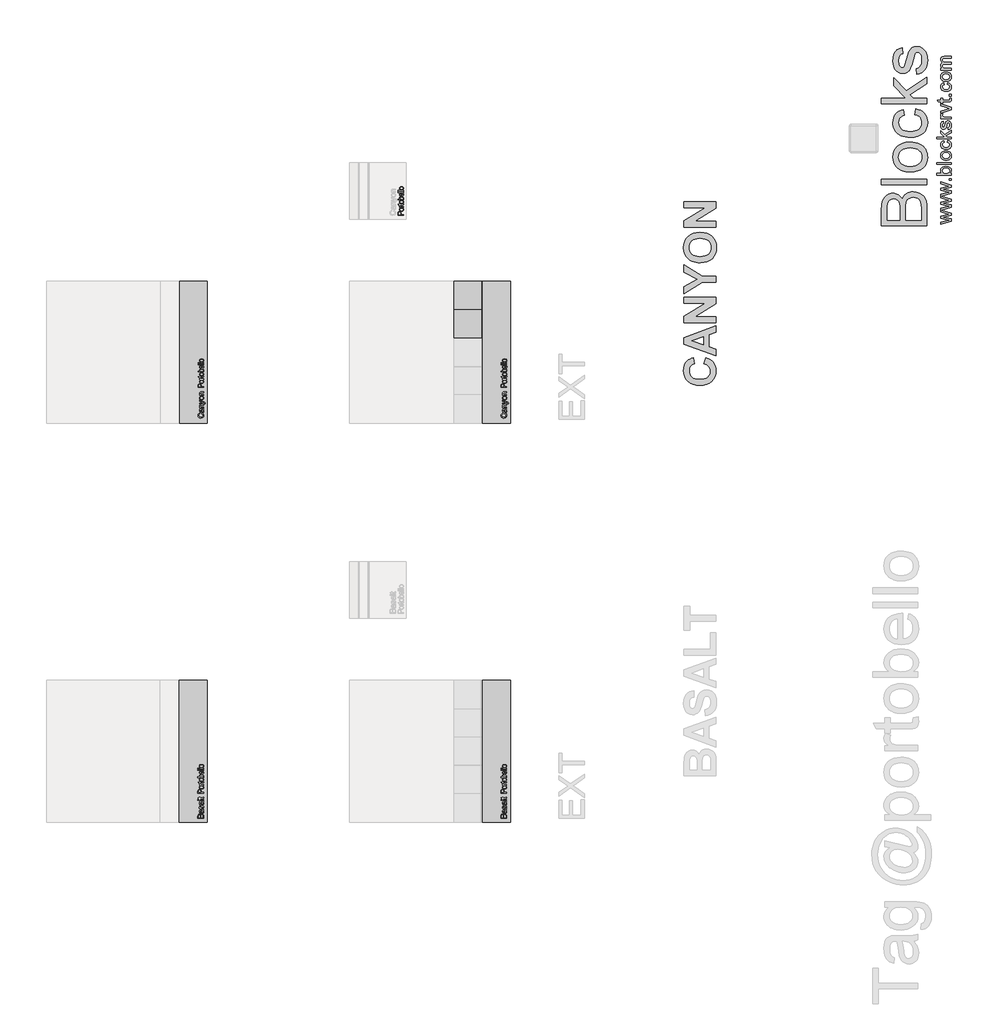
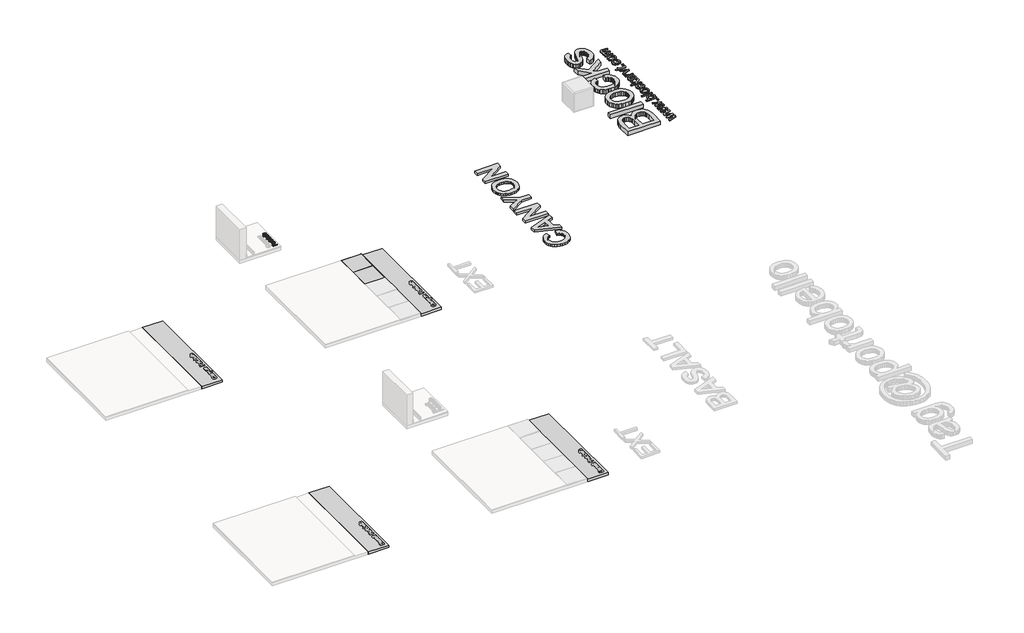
# One storey, part 6 of 6: 11 proxies.
"""IFC4 building model written with IfcOpenShell, lengths in millimetres."""

from ifc_helpers import new_model, si_unit, frame, origin, origin_with_axes, place, context, project, spatial, polyline, outline, extrude, transform, mapped, element, save
from components import generic_models_2391cbb6, generic_models_5408dc23, canyon_243530b5, canyon_287c7c05

model = new_model("IFC4")

# Units and contexts
model_context = context("Model", 3, world=origin())
ifc_project = project(units=[si_unit("LENGTHUNIT", "METRE", prefix="MILLI")], contexts=[model_context])

# Site, building, storey
site = spatial("IfcSite", under=ifc_project)
building = spatial("IfcBuilding", under=site)
storey = spatial("IfcBuildingStorey", under=building, Name="PORTOBELLO - SHOWROOM", Elevation=0.0)

# Proxies
placement = place(None, origin())
generic_models_shape = generic_models_2391cbb6(model_context)
element("IfcBuildingElementProxy", 1, Name="Água2 : Água", ObjectType="Água2 : Água", at=placement, inside=storey, context=model_context, shape_type="MappedRepresentation", body=[
    mapped(generic_models_shape, transform((0.0, 0.0, 0.0), x_axis=(1.0, 0.0, 0.0), y_axis=(0.0, 1.0, 0.0), z_axis=(0.0, 0.0, 1.0))),
])
generic_models_2_shape = generic_models_5408dc23(model_context)
element("IfcBuildingElementProxy", 2, Name="Água1 : Água", ObjectType="Água1 : Água", at=placement, inside=storey, context=model_context, shape_type="MappedRepresentation", body=[
    mapped(generic_models_2_shape, transform((0.0, 535.0, 0.0), x_axis=(1.0, 0.0, 0.0), y_axis=(0.0, 1.0, 0.0), z_axis=(0.0, 0.0, 1.0))),
])
element("IfcBuildingElementProxy", 3, Name="Água3 : Água", ObjectType="Água3 : Água", at=placement, inside=storey, context=model_context, shape_type="MappedRepresentation", body=[
    mapped(generic_models_shape, transform((5344.0, 0.0, 0.0), x_axis=(1.0, 0.0, 0.0), y_axis=(0.0, 1.0, 0.0), z_axis=(0.0, 0.0, 1.0))),
])
element("IfcBuildingElementProxy", 4, Name="Água4 : Água", ObjectType="Água4 : Água", at=placement, inside=storey, context=model_context, shape_type="MappedRepresentation", body=[
    mapped(generic_models_2_shape, transform((5344.0, 535.0, 0.0), x_axis=(1.0, 0.0, 0.0), y_axis=(0.0, 1.0, 0.0), z_axis=(0.0, 0.0, 1.0))),
])
element("IfcBuildingElementProxy", 5, Name="10mm Arial Narrow", ObjectType="10mm Arial Narrow", at=placement, inside=storey, context=model_context, shape_type="SweptSolid", body=[
    extrude(outline(polyline([(-4838.8191534, 2273.1726113), (-4939.5377572, 2273.1726113), (-4939.5377572, 2304.469496), (-4937.6594364, 2320.7651975), (-4928.1789933, 2332.2381836), (-4911.1598844, 2336.5278621), (-4899.0840589, 2334.7415536), (-4889.4576651, 2329.3826284), (-4883.1564067, 2319.6388396), (-4881.0559873, 2304.6979404), (-4881.0559873, 2282.919573), (-4838.8191534, 2282.919573), (-4838.8191534, 2273.1726113)]), holes=[polyline([(-4892.4274425, 2282.919573), (-4892.4274425, 2305.8909279), (-4896.9582567, 2321.7551233), (-4910.6268475, 2326.7809004), (-4920.7926239, 2324.3060859), (-4926.5925737, 2318.3284571), (-4928.1663019, 2305.6624835), (-4928.1663019, 2282.919573), (-4892.4274425, 2282.919573)])]), frame((0.0, 0.0, 16.0), z_axis=(0.0, 0.0, 1.0), x_axis=(1.0, 0.0, 0.0)), (0.0, 0.0, 1.0), 20.0),
    extrude(outline(polyline([(-4875.3702596, 2344.6503301), (-4891.9610352, 2346.604799), (-4903.91312, 2352.4682056), (-4911.1376746, 2361.3267723), (-4913.5458594, 2372.2667214), (-4911.1376746, 2383.079757), (-4903.91312, 2391.9637065), (-4892.1514055, 2397.9032612), (-4876.131741, 2399.8831128), (-4858.9698544, 2397.9381624), (-4846.8273993, 2392.1033114), (-4839.6028447, 2383.2542632), (-4837.1946598, 2372.2667214), (-4839.6091904, 2361.4060933), (-4846.852782, 2352.5316624), (-4858.8112125, 2346.6206632), (-4875.3702596, 2344.6503301)]), holes=[polyline([(-4875.3956423, 2354.3972917), (-4862.8438909, 2355.7013286), (-4853.9726329, 2359.6134392), (-4848.6993743, 2365.4546359), (-4846.9416215, 2372.5459313), (-4848.7152385, 2379.2660045), (-4854.0360896, 2384.9580778), (-4862.9232119, 2388.8416328), (-4875.3956423, 2390.1361511), (-4887.9093197, 2388.8321143), (-4896.7678864, 2384.9200037), (-4902.0411449, 2379.078807), (-4903.7988978, 2371.9875116), (-4902.0316264, 2365.2198459), (-4896.7298123, 2359.5372911), (-4887.8617271, 2355.6822916), (-4875.3956423, 2354.3972917)])]), frame((0.0, 0.0, 16.0), z_axis=(0.0, 0.0, 1.0), x_axis=(1.0, 0.0, 0.0)), (0.0, 0.0, 1.0), 20.0),
    extrude(outline(polyline([(-4846.9416215, 2471.3608316), (-4837.1946598, 2472.9853252), (-4837.1946598, 2465.6243385), (-4839.3141163, 2457.3495742), (-4845.1140662, 2453.0345131), (-4859.7598913, 2451.8669083), (-4902.1744042, 2451.8669083), (-4902.1744042, 2443.7444402), (-4905.4233914, 2443.7444402), (-4900.5499106, 2442.1199466), (-4902.1744042, 2434.5558983), (-4899.851886, 2428.4767386), (-4893.3666029, 2424.6058749), (-4877.9592963, 2422.6260233), (-4838.8191534, 2422.6260233), (-4838.8191534, 2412.8790617), (-4911.9213658, 2412.8790617), (-4911.9213658, 2422.6260233), (-4902.2251696, 2422.6260233), (-4911.3121807, 2428.8701706), (-4913.5458594, 2435.2666142), (-4911.9213658, 2443.7444402), (-4911.9213658, 2451.8669083), (-4928.1663019, 2451.8669083), (-4936.28877, 2461.6138699), (-4911.9213658, 2461.6138699), (-4911.9213658, 2471.3608316), (-4902.1744042, 2471.3608316), (-4902.1744042, 2461.6138699), (-4857.5262126, 2461.6138699), (-4849.5306582, 2462.4768822), (-4846.9416215, 2467.0965359), (-4846.9416215, 2471.3608316)])), frame((0.0, 0.0, 16.0), z_axis=(0.0, 0.0, 1.0), x_axis=(1.0, 0.0, 0.0)), (0.0, 0.0, 1.0), 20.0),
    extrude(outline(polyline([(-4875.3702596, 2477.858806), (-4891.9610352, 2479.8132749), (-4903.91312, 2485.6766815), (-4911.1376746, 2494.5352482), (-4913.5458594, 2505.4751974), (-4911.1376746, 2516.288233), (-4903.91312, 2525.1721824), (-4892.1514055, 2531.1117371), (-4876.131741, 2533.0915887), (-4858.9698544, 2531.1466384), (-4846.8273993, 2525.3117873), (-4839.6028447, 2516.4627391), (-4837.1946598, 2505.4751974), (-4839.6091904, 2494.6145692), (-4846.852782, 2485.7401383), (-4858.8112125, 2479.8291391), (-4875.3702596, 2477.858806)]), holes=[polyline([(-4875.3956423, 2487.6057677), (-4862.8438909, 2488.9098045), (-4853.9726329, 2492.8219151), (-4848.6993743, 2498.6631119), (-4846.9416215, 2505.7544072), (-4848.7152385, 2512.4744804), (-4854.0360896, 2518.1665537), (-4862.9232119, 2522.0501087), (-4875.3956423, 2523.3446271), (-4887.9093197, 2522.0405902), (-4896.7678864, 2518.1284796), (-4902.0411449, 2512.2872829), (-4903.7988978, 2505.1959875), (-4902.0316264, 2498.4283218), (-4896.7298123, 2492.745767), (-4887.8617271, 2488.8907675), (-4875.3956423, 2487.6057677)])]), frame((0.0, 0.0, 16.0), z_axis=(0.0, 0.0, 1.0), x_axis=(1.0, 0.0, 0.0)), (0.0, 0.0, 1.0), 20.0),
    extrude(outline(polyline([(-4838.8191534, 2555.8344993), (-4838.8191534, 2546.0875376), (-4939.5377572, 2546.0875376), (-4939.5377572, 2555.8344993), (-4904.128873, 2555.8344993), (-4911.2106499, 2563.23356), (-4913.5458594, 2572.4347933), (-4909.3450205, 2585.31652), (-4896.6155901, 2594.5939015), (-4875.9286793, 2598.0713331), (-4859.4743358, 2596.1390741), (-4847.2715967, 2590.3422971), (-4839.713894, 2581.9691748), (-4837.1946598, 2572.3078798), (-4839.8090792, 2562.9670415), (-4847.5761893, 2555.8344993), (-4838.8191534, 2555.8344993)]), holes=[polyline([(-4875.9286793, 2555.8344993), (-4858.6811261, 2557.9158817), (-4849.9494729, 2563.804671), (-4846.9416215, 2572.2571143), (-4848.7311027, 2578.1998419), (-4854.0995464, 2583.4381992), (-4875.5225559, 2588.3243714), (-4896.9582567, 2583.6158782), (-4902.0887375, 2578.3711752), (-4903.7988978, 2572.0540526), (-4902.0094165, 2566.0764238), (-4896.6409728, 2560.7841282), (-4875.9286793, 2555.8344993)])]), frame((0.0, 0.0, 16.0), z_axis=(0.0, 0.0, 1.0), x_axis=(1.0, 0.0, 0.0)), (0.0, 0.0, 1.0), 20.0),
    extrude(outline(polyline([(-4861.5620639, 2650.0551286), (-4859.9375703, 2659.8020902), (-4850.0510038, 2656.1025599), (-4842.9311529, 2650.283573), (-4838.6287831, 2642.5799197), (-4837.1946598, 2633.2263901), (-4839.6091904, 2621.6328361), (-4846.852782, 2612.4887139), (-4858.6589162, 2606.5491591), (-4874.7610745, 2604.5693075), (-4891.4279982, 2606.5586776), (-4903.6085274, 2612.5267879), (-4911.0615264, 2621.5408238), (-4913.5458594, 2632.6679704), (-4911.1471931, 2643.3509196), (-4903.9511941, 2652.0984369), (-4892.2116895, 2657.933288), (-4876.1825064, 2659.8782384), (-4872.9335192, 2659.8020902), (-4872.9335192, 2614.3162692), (-4853.4903613, 2620.3192807), (-4848.5788064, 2626.249317), (-4846.9416215, 2633.3533037), (-4850.5967321, 2643.5317714), (-4861.5620639, 2650.0551286)]), holes=[polyline([(-4882.6804809, 2614.9762197), (-4882.6804809, 2650.0551286), (-4896.9455654, 2645.7908328), (-4902.0855647, 2639.9655003), (-4903.7988978, 2632.7441186), (-4898.0877874, 2620.5350338), (-4882.6804809, 2614.9762197)])]), frame((0.0, 0.0, 16.0), z_axis=(0.0, 0.0, 1.0), x_axis=(1.0, 0.0, 0.0)), (0.0, 0.0, 1.0), 20.0),
    extrude(outline(polyline([(-4838.8191534, 2672.7980391), (-4939.5377572, 2672.7980391), (-4939.5377572, 2682.5450008), (-4838.8191534, 2682.5450008), (-4838.8191534, 2672.7980391)])), frame((0.0, 0.0, 16.0), z_axis=(0.0, 0.0, 1.0), x_axis=(1.0, 0.0, 0.0)), (0.0, 0.0, 1.0), 20.0),
    extrude(outline(polyline([(-4838.8191534, 2698.7899368), (-4939.5377572, 2698.7899368), (-4939.5377572, 2708.5368985), (-4838.8191534, 2708.5368985), (-4838.8191534, 2698.7899368)])), frame((0.0, 0.0, 16.0), z_axis=(0.0, 0.0, 1.0), x_axis=(1.0, 0.0, 0.0)), (0.0, 0.0, 1.0), 20.0),
    extrude(outline(polyline([(-4875.3702596, 2719.9083538), (-4891.9610352, 2721.8628226), (-4903.91312, 2727.7262292), (-4911.1376746, 2736.584796), (-4913.5458594, 2747.5247451), (-4911.1376746, 2758.3377807), (-4903.91312, 2767.2217301), (-4892.1514055, 2773.1612849), (-4876.131741, 2775.1411365), (-4858.9698544, 2773.1961861), (-4846.8273993, 2767.361335), (-4839.6028447, 2758.5122868), (-4837.1946598, 2747.5247451), (-4839.6091904, 2736.6641169), (-4846.852782, 2727.789686), (-4858.8112125, 2721.8786868), (-4875.3702596, 2719.9083538)]), holes=[polyline([(-4875.3956423, 2729.6553154), (-4862.8438909, 2730.9593523), (-4853.9726329, 2734.8714629), (-4848.6993743, 2740.7126596), (-4846.9416215, 2747.8039549), (-4848.7152385, 2754.5240281), (-4854.0360896, 2760.2161014), (-4862.9232119, 2764.0996565), (-4875.3956423, 2765.3941748), (-4887.9093197, 2764.0901379), (-4896.7678864, 2760.1780274), (-4902.0411449, 2754.3368306), (-4903.7988978, 2747.2455353), (-4902.0316264, 2740.4778695), (-4896.7298123, 2734.7953147), (-4887.8617271, 2730.9403152), (-4875.3956423, 2729.6553154)])]), frame((0.0, 0.0, 16.0), z_axis=(0.0, 0.0, 1.0), x_axis=(1.0, 0.0, 0.0)), (0.0, 0.0, 1.0), 20.0),
])
element("IfcBuildingElementProxy", 6, Name="25mm Arial", ObjectType="25mm Arial", at=placement, inside=storey, context=model_context, shape_type="SweptSolid", body=[
    extrude(outline(polyline([(4817.9669276, 2663.3766874), (4639.9469451, 2608.9882686), (4817.9669276, 2554.4223032), (4817.9669276, 2516.5304577), (4709.809621, 2492.3728733), (4676.0871048, 2485.3831154), (4817.9669276, 2454.2970868), (4817.9669276, 2416.1599867), (4639.9469451, 2361.7715678), (4817.9669276, 2307.2056024), (4817.9669276, 2269.3137569), (4709.809621, 2245.1561726), (4676.0871048, 2238.1664147), (4817.9669276, 2207.0803861), (4817.9669276, 2168.9432859), (4633.5354207, 2112.596027), (4633.5354207, 2145.1535836), (4741.1409042, 2177.0366898), (4779.5845727, 2186.540308), (4742.5511186, 2194.3271436), (4633.5354207, 2219.6496876), (4633.5354207, 2256.9283964), (4742.2445502, 2282.2509404), (4775.7831255, 2289.1793847), (4740.4051403, 2299.1121985), (4633.5354207, 2330.9953048), (4633.5354207, 2359.8127277), (4633.5354207, 2363.7368024), (4633.5354207, 2392.3702843), (4741.1409042, 2424.2533906), (4779.5845727, 2433.7570088), (4742.5511186, 2441.5438443), (4633.5354207, 2466.8663883), (4633.5354207, 2504.1450972), (4742.2445502, 2529.4676412), (4775.7831255, 2536.3960854), (4740.4051403, 2546.3288993), (4633.5354207, 2578.2120056), (4633.5354207, 2607.0294285), (4633.5354207, 2610.9535031), (4633.5354207, 2639.5869851), (4741.1409042, 2671.4700913), (4779.5845727, 2680.9737095), (4742.5511186, 2688.7605451), (4633.5354207, 2714.0830891), (4633.5354207, 2751.3617979), (4742.2445502, 2776.6843419), (4775.7831255, 2783.6127862), (4740.4051403, 2793.5456001), (4633.5354207, 2825.4287063), (4633.5354207, 2858.1702039), (4817.9669276, 2801.639004), (4817.9669276, 2763.7471585), (4709.809621, 2739.5895741), (4676.0871048, 2732.5998162), (4817.9669276, 2701.5137876), (4817.9669276, 2663.3766874)])), origin_with_axes(), (0.0, 0.0, 1.0), 20.0),
    extrude(outline(polyline([(4817.9669276, 2887.6007635), (4786.5743307, 2887.6007635), (4786.5743307, 2918.9933604), (4817.9669276, 2918.9933604), (4817.9669276, 2887.6007635)])), origin_with_axes(), (0.0, 0.0, 1.0), 20.0),
    extrude(outline(polyline([(4817.9669276, 3009.2470766), (4817.9669276, 2977.8544796), (4566.8261522, 2977.8544796), (4566.8261522, 3009.2470766), (4659.9616106, 3009.2470766), (4646.6833699, 3019.5707651), (4637.1989122, 3031.2280258), (4631.5082376, 3044.2188587), (4629.611346, 3058.5432639), (4631.3204645, 3074.7147433), (4636.4478198, 3089.9971745), (4644.6715152, 3103.5168378), (4655.669654, 3114.4000135), (4685.5600661, 3129.3912048), (4722.9920592, 3134.8174643), (4764.8999498, 3129.1995996), (4781.8301858, 3122.1772688), (4796.0779489, 3112.3460057), (4807.3711597, 3100.5450411), (4815.4377389, 3087.6136057), (4820.2776864, 3073.5516997), (4821.8910022, 3058.3593229), (4819.8101697, 3043.5635689), (4813.567672, 3030.4462765), (4803.1635094, 3019.0074458), (4788.5976816, 3009.2470766), (4817.9669276, 3009.2470766)]), holes=[polyline([(4724.4635871, 3009.2470766), (4750.6445225, 3011.3930549), (4768.3641719, 3017.8309898), (4784.9648469, 3034.2783807), (4790.4984053, 3055.6615216), (4786.4210465, 3073.7797099), (4774.1889701, 3089.2614105), (4753.8788183, 3099.8840031), (4725.5672331, 3103.4248673), (4696.8417807, 3100.0296231), (4676.7615551, 3089.8438903), (4664.943346, 3074.8450348), (4661.003943, 3057.0104223), (4665.0813017, 3038.892234), (4677.3133781, 3023.4105334), (4697.2556479, 3012.7879408), (4724.4635871, 3009.2470766)])]), origin_with_axes(), (0.0, 0.0, 1.0), 20.0),
    extrude(outline(polyline([(4817.9669276, 3170.1341358), (4566.8261522, 3170.1341358), (4566.8261522, 3201.5267327), (4817.9669276, 3201.5267327), (4817.9669276, 3170.1341358)])), origin_with_axes(), (0.0, 0.0, 1.0), 20.0),
    extrude(outline(polyline([(4725.7511741, 3240.7674789), (4701.8656692, 3242.465101), (4681.2834379, 3247.5579674), (4664.0044805, 3256.046078), (4650.0287968, 3267.9294328), (4634.7157087, 3293.0986927), (4629.611346, 3323.2343595), (4631.1652643, 3340.553554), (4635.8270189, 3356.2134475), (4643.59661, 3370.2140399), (4654.4740376, 3382.5553312), (4668.0914195, 3392.6280168), (4684.080874, 3399.8227923), (4702.4424008, 3404.1396576), (4723.1760002, 3405.5786127), (4754.8904938, 3403.0340956), (4779.0327498, 3395.4005442), (4797.112617, 3382.9002205), (4810.6399445, 3365.7553867), (4819.0782378, 3345.3915855), (4821.8910022, 3323.2343595), (4820.3428321, 3305.662246), (4815.6983219, 3289.8567326), (4807.9574716, 3275.8178192), (4797.1202812, 3263.5455057), (4783.3706916, 3253.580119), (4766.8926439, 3246.4619856), (4747.6861381, 3242.1911055), (4725.7511741, 3240.7674789)]), holes=[polyline([(4725.6898605, 3272.1600758), (4754.1010804, 3275.7929105), (4774.3422543, 3286.6914146), (4786.4593675, 3303.0928202), (4790.4984053, 3323.2343595), (4786.4363749, 3343.2839282), (4774.2502838, 3359.654677), (4753.7408626, 3370.5531811), (4724.7088418, 3374.1860158), (4697.1253564, 3370.5301885), (4677.1600939, 3359.5627065), (4665.0429807, 3343.1689651), (4661.003943, 3323.2343595), (4665.0276523, 3303.0928202), (4677.0987803, 3286.6914146), (4697.2939689, 3275.7929105), (4725.6898605, 3272.1600758)])]), origin_with_axes(), (0.0, 0.0, 1.0), 20.0),
    extrude(outline(polyline([(4751.2576591, 3558.6175227), (4755.1817337, 3590.0101196), (4783.1024443, 3581.2575938), (4804.2020096, 3564.810203), (4817.468754, 3542.2161171), (4821.8910022, 3515.0235063), (4820.3485803, 3497.4169039), (4815.7213146, 3481.630551), (4808.009205, 3467.6644475), (4797.2122517, 3455.5185935), (4783.533556, 3445.6873304), (4767.1762196, 3438.6649996), (4726.4256244, 3433.047135), (4698.4895854, 3435.4460322), (4674.2783516, 3442.6427237), (4654.7269564, 3454.7521727), (4640.7704332, 3471.8893423), (4632.4011178, 3492.3910994), (4629.611346, 3514.5943106), (4633.4434502, 3541.1201353), (4644.9397625, 3562.3269995), (4663.4871464, 3577.5404528), (4688.4724653, 3586.086045), (4692.3965399, 3554.6934481), (4678.7005998, 3548.9989414), (4668.882749, 3540.1314524), (4662.9736445, 3528.5814906), (4661.003943, 3514.8395653), (4664.8820323, 3494.5524061), (4676.5163004, 3478.4499046), (4696.5352123, 3467.9422751), (4725.5672331, 3464.4397319), (4754.9901285, 3467.865633), (4775.0780183, 3478.1433363), (4786.6433085, 3493.9545978), (4790.4984053, 3513.9811739), (4788.0918439, 3530.2369596), (4780.8721597, 3543.5650177), (4768.6554118, 3553.2602411), (4751.2576591, 3558.6175227)])), origin_with_axes(), (0.0, 0.0, 1.0), 20.0),
    extrude(outline(polyline([(4817.9669276, 3617.4786419), (4566.8261522, 3617.4786419), (4566.8261522, 3648.8712388), (4701.7775308, 3648.8712388), (4633.5354207, 3719.2593273), (4633.5354207, 3762.6694027), (4702.6359221, 3691.3616093), (4817.9669276, 3766.5934773), (4817.9669276, 3729.9279051), (4724.4635871, 3668.8594939), (4743.9000192, 3648.8712388), (4817.9669276, 3648.8712388), (4817.9669276, 3617.4786419)])), origin_with_axes(), (0.0, 0.0, 1.0), 20.0),
    extrude(outline(polyline([(4763.029883, 3782.2897758), (4759.1058083, 3813.6823727), (4772.5335012, 3818.6334512), (4782.4050014, 3828.2137115), (4788.4750543, 3842.4844672), (4790.4984053, 3861.5070321), (4788.6436669, 3880.2996706), (4783.0794517, 3893.5127656), (4775.0167046, 3901.330258), (4765.6663706, 3903.9360888), (4757.6649372, 3901.3149296), (4751.5642274, 3893.451452), (4742.6124322, 3861.1391501), (4727.2533589, 3813.8663137), (4719.5355012, 3801.9024846), (4709.3191117, 3793.2342651), (4697.2556479, 3787.9689541), (4683.9965677, 3786.2138504), (4660.6054041, 3791.8547076), (4642.7324705, 3807.2444378), (4633.4434502, 3827.202036), (4629.611346, 3854.2107058), (4631.1518519, 3874.643485), (4635.7733695, 3892.4091197), (4643.0237105, 3906.6952038), (4652.4506866, 3916.6893313), (4664.7517408, 3923.3112072), (4680.624316, 3927.4805365), (4684.5483907, 3896.0879396), (4674.6692262, 3892.125544), (4667.2272801, 3884.2850589), (4662.5597772, 3872.4898425), (4661.003943, 3856.6632525), (4662.4907994, 3838.6370347), (4666.9513686, 3826.6195562), (4673.3893035, 3819.8597245), (4680.808257, 3817.6064473), (4689.9439933, 3821.3465809), (4696.8724375, 3833.0574911), (4703.5556271, 3860.0968177), (4718.3322205, 3906.1740376), (4725.3986205, 3918.3448003), (4735.0708513, 3927.572507), (4747.3795697, 3933.3896411), (4762.3554326, 3935.3286858), (4777.8371333, 3933.0524159), (4792.3991289, 3926.2236064), (4804.8994525, 3915.1028402), (4814.1961371, 3899.9507006), (4819.9672859, 3881.6485713), (4821.8910022, 3861.0778364), (4818.1815254, 3829.4246564), (4807.0530951, 3806.3247328), (4788.6283385, 3790.9043458), (4763.029883, 3782.2897758)])), origin_with_axes(), (0.0, 0.0, 1.0), 20.0),
    extrude(outline(polyline([(4817.9669276, 4133.7397085), (4633.5354207, 4068.7472227), (4633.5354207, 4101.9179159), (4744.0226465, 4141.2812894), (4781.1787281, 4153.1148269), (4746.1073112, 4164.7031098), (4633.5354207, 4204.2504242), (4633.5354207, 4237.4824311), (4817.9669276, 4173.4096503), (4817.9669276, 4133.7397085)])), origin_with_axes(), (0.0, 0.0, 1.0), 20.0),
    extrude(outline(polyline([(4817.9669276, 3970.6453573), (4633.5354207, 3970.6453573), (4633.5354207, 3998.1138796), (4660.820002, 3998.1138796), (4645.0010762, 4008.2612913), (4635.681399, 4017.6116253), (4629.611346, 4037.2319984), (4632.0332358, 4052.8669832), (4639.2989052, 4068.7472227), (4667.4418779, 4058.2625858), (4661.003943, 4036.1896661), (4662.552113, 4026.8163394), (4667.1966232, 4018.4393598), (4684.3644497, 4007.1269885), (4721.0300218, 4002.0379542), (4817.9669276, 4002.0379542), (4817.9669276, 3970.6453573)])), origin_with_axes(), (0.0, 0.0, 1.0), 20.0),
    extrude(outline(polyline([(4791.7859923, 4331.6602219), (4818.8866326, 4335.5842965), (4821.8910022, 4312.1011625), (4820.5880868, 4297.0333291), (4816.6793406, 4285.7975998), (4803.0063931, 4272.6764753), (4767.3831532, 4268.8750281), (4664.9280176, 4268.8750281), (4664.9280176, 4245.3305804), (4633.5354207, 4245.3305804), (4633.5354207, 4268.8750281), (4588.7151309, 4268.8750281), (4570.2597175, 4300.267625), (4633.5354207, 4300.267625), (4633.5354207, 4331.6602219), (4664.9280176, 4331.6602219), (4664.9280176, 4300.267625), (4766.4634482, 4300.267625), (4782.650256, 4301.923094), (4788.3830838, 4307.2880397), (4790.4984053, 4317.9872744), (4791.7859923, 4331.6602219)])), origin_with_axes(), (0.0, 0.0, 1.0), 20.0),
    extrude(outline(polyline([(4817.9669276, 4370.900968), (4786.5743307, 4370.900968), (4786.5743307, 4402.293565), (4817.9669276, 4402.293565), (4817.9669276, 4370.900968)])), origin_with_axes(), (0.0, 0.0, 1.0), 20.0),
    extrude(outline(polyline([(4751.2576591, 4578.8769227), (4755.1817337, 4610.2695196), (4783.1024443, 4601.5169938), (4804.2020096, 4585.0696029), (4817.468754, 4562.475517), (4821.8910022, 4535.2829062), (4820.3485803, 4517.6763039), (4815.7213146, 4501.889951), (4808.009205, 4487.9238475), (4797.2122517, 4475.7779935), (4783.533556, 4465.9467304), (4767.1762196, 4458.9243996), (4726.4256244, 4453.306535), (4698.4895854, 4455.7054321), (4674.2783516, 4462.9021237), (4654.7269564, 4475.0115727), (4640.7704332, 4492.1487423), (4632.4011178, 4512.6504993), (4629.611346, 4534.8537106), (4633.4434502, 4561.3795353), (4644.9397625, 4582.5863994), (4663.4871464, 4597.7998528), (4688.4724653, 4606.345445), (4692.3965399, 4574.952848), (4678.7005998, 4569.2583413), (4668.882749, 4560.3908524), (4662.9736445, 4548.8408906), (4661.003943, 4535.0989652), (4664.8820323, 4514.811806), (4676.5163004, 4498.7093045), (4696.5352123, 4488.2016751), (4725.5672331, 4484.6991319), (4754.9901285, 4488.125033), (4775.0780183, 4498.4027362), (4786.6433085, 4514.2139978), (4790.4984053, 4534.2405739), (4788.0918439, 4550.4963596), (4780.8721597, 4563.8244177), (4768.6554118, 4573.5196411), (4751.2576591, 4578.8769227)])), origin_with_axes(), (0.0, 0.0, 1.0), 20.0),
    extrude(outline(polyline([(4725.7511741, 4629.8898927), (4701.8656692, 4631.5875148), (4681.2834379, 4636.6803811), (4664.0044805, 4645.1684918), (4650.0287968, 4657.0518466), (4634.7157087, 4682.2211065), (4629.611346, 4712.3567732), (4631.1652643, 4729.6759678), (4635.8270189, 4745.3358613), (4643.59661, 4759.3364537), (4654.4740376, 4771.677745), (4668.0914195, 4781.7504306), (4684.080874, 4788.9452061), (4702.4424008, 4793.2620714), (4723.1760002, 4794.7010265), (4754.8904938, 4792.1565094), (4779.0327498, 4784.522958), (4797.112617, 4772.0226343), (4810.6399445, 4754.8778005), (4819.0782378, 4734.5139992), (4821.8910022, 4712.3567732), (4820.3428321, 4694.7846598), (4815.6983219, 4678.9791464), (4807.9574716, 4664.940233), (4797.1202812, 4652.6679195), (4783.3706916, 4642.7025328), (4766.8926439, 4635.5843994), (4747.6861381, 4631.3135193), (4725.7511741, 4629.8898927)]), holes=[polyline([(4725.6898605, 4661.2824896), (4754.1010804, 4664.9153243), (4774.3422543, 4675.8138284), (4786.4593675, 4692.215234), (4790.4984053, 4712.3567732), (4786.4363749, 4732.406342), (4774.2502838, 4748.7770908), (4753.7408626, 4759.6755949), (4724.7088418, 4763.3084296), (4697.1253564, 4759.6526022), (4677.1600939, 4748.6851203), (4665.0429807, 4732.2913789), (4661.003943, 4712.3567732), (4665.0276523, 4692.215234), (4677.0987803, 4675.8138284), (4697.2939689, 4664.9153243), (4725.6898605, 4661.2824896)])]), origin_with_axes(), (0.0, 0.0, 1.0), 20.0),
    extrude(outline(polyline([(4817.9669276, 4830.017698), (4633.5354207, 4830.017698), (4633.5354207, 4861.410295), (4663.8856853, 4861.410295), (4649.9444905, 4870.8525995), (4639.0229938, 4882.9927053), (4631.964258, 4897.4167452), (4629.611346, 4913.7108519), (4632.0102432, 4931.1699183), (4639.2069348, 4945.1647625), (4650.7262397, 4955.6187425), (4666.0929772, 4962.4552163), (4650.1322636, 4973.8978792), (4638.7317538, 4986.9500258), (4631.891448, 5001.6116562), (4629.611346, 5017.8827702), (4633.4051291, 5041.4808674), (4644.7864783, 5058.9322695), (4664.0619621, 5069.7158105), (4691.5381486, 5073.3103242), (4817.9669276, 5073.3103242), (4817.9669276, 5041.9177273), (4705.0271551, 5041.9177273), (4678.8155629, 5039.0053281), (4665.9090362, 5028.4593776), (4661.003943, 5010.5251303), (4664.1462683, 4993.5182523), (4673.5732445, 4979.6536996), (4689.9286648, 4970.4336571), (4713.8563229, 4967.3603096), (4817.9669276, 4967.3603096), (4817.9669276, 4935.9677126), (4701.5322761, 4935.9677126), (4683.7819698, 4934.1512953), (4671.1206978, 4928.7020432), (4663.5331317, 4919.1141187), (4661.003943, 4904.881684), (4662.6900688, 4892.7875635), (4667.7484462, 4881.6438047), (4676.0564479, 4872.4467548), (4687.4914466, 4866.1927609), (4724.9540965, 4861.410295), (4817.9669276, 4861.410295), (4817.9669276, 4830.017698)])), origin_with_axes(), (0.0, 0.0, 1.0), 20.0),
])
element("IfcBuildingElementProxy", 7, Name="550mm Arial", ObjectType="550mm Arial", at=placement, inside=storey, context=model_context, shape_type="SweptSolid", body=[
    extrude(outline(polyline([(455.4732338, -345.5919501), (491.1013398, -238.707632), (533.3618752, -253.4685929), (569.8206659, -272.422119), (600.4777117, -295.5682104), (625.3330127, -322.9068669), (644.5431378, -354.3250112), (658.2646557, -389.7095658), (666.4975664, -429.0605305), (669.24187, -472.3779055), (664.5535035, -525.898349), (650.488404, -574.4259866), (627.0465715, -617.9608183), (594.2280061, -656.5028441), (553.27656, -688.0427641), (505.4360856, -710.5712785), (450.7065829, -724.088387), (389.0880518, -728.5940899), (324.1119893, -724.0492448), (266.8251958, -710.4147096), (217.2276712, -687.6904843), (175.3194157, -655.8765688), (142.0137472, -616.6517289), (118.223984, -571.6947304), (103.9501261, -521.0055732), (99.1921735, -464.5842573), (103.1150924, -415.2476808), (114.8838491, -370.7821344), (134.4984436, -331.1876182), (161.9588759, -296.464132), (182.4954868, -278.3978292), (207.0854907, -262.7496449), (235.7288874, -249.5195792), (268.4256771, -238.707632), (286.2397301, -345.5919501), (266.6642778, -352.3287587), (249.2720908, -361.9620906), (234.0631691, -374.4919458), (221.0375127, -389.9183242), (210.5952418, -407.7019333), (203.136477, -427.3034804), (198.661218, -448.7229655), (197.1694651, -471.9603887), (199.8789756, -503.7221145), (208.0075071, -532.3437656), (221.5550596, -557.8253419), (240.5216331, -580.1668435), (265.5508995, -598.3418746), (297.2865306, -611.3240397), (335.7285263, -619.1133388), (380.8768868, -621.7097718), (428.6651716, -619.1916232), (469.042532, -611.6371774), (502.008968, -599.0464344), (527.5644796, -581.4193941), (546.6832728, -559.7563575), (560.3395537, -535.0576253), (568.5333222, -507.3231975), (571.2645784, -476.5530742), (569.5205756, -453.6461852), (564.2885674, -432.3832689), (555.5685536, -412.7643253), (543.3605344, -394.7893543), (527.4035616, -378.8497781), (507.4366873, -365.3370186), (483.4599113, -354.2510759), (455.4732338, -345.5919501)])), origin_with_axes(), (0.0, 0.0, 1.0), 50.0),
    extrude(outline(polyline([(669.24187, 322.435038), (669.24187, 210.1230006), (544.5434989, 166.1445572), (544.5434989, -45.6756669), (669.24187, -89.0974211), (669.24187, -203.079526), (108.0992, 1.5037391), (108.0992, 115.6250163), (669.24187, 322.435038)]), holes=[polyline([(446.5662073, 131.9081741), (241.7045976, 59.677756), (446.5662073, -11.578456), (446.5662073, 131.9081741)])]), origin_with_axes(), (0.0, 0.0, 1.0), 50.0),
    extrude(outline(polyline([(669.24187, 375.877197), (108.0992, 375.877197), (108.0992, 487.9108898), (485.8127928, 723.2512308), (108.0992, 723.2512308), (108.0992, 830.1355489), (669.24187, 830.1355489), (669.24187, 714.6225489), (297.0951687, 482.7615151), (669.24187, 482.7615151), (669.24187, 375.877197)])), origin_with_axes(), (0.0, 0.0, 1.0), 50.0),
    extrude(outline(polyline([(669.24187, 1088.4393176), (433.0664952, 1088.4393176), (108.0992, 888.0312212), (108.0992, 1011.8945586), (338.4293386, 1141.7423044), (108.0992, 1271.7292225), (108.0992, 1395.7317321), (433.901529, 1195.3236357), (669.24187, 1195.3236357), (669.24187, 1088.4393176)])), origin_with_axes(), (0.0, 0.0, 1.0), 50.0),
    extrude(outline(polyline([(392.1498422, 1435.8133514), (351.0766204, 1437.387738), (313.4479127, 1442.1108975), (279.2637191, 1449.9828301), (248.5240398, 1461.0035358), (207.972714, 1483.2189124), (171.7705223, 1512.2885243), (142.1442212, 1546.3335456), (121.3205675, 1583.4751503), (111.6393951, 1610.2136263), (104.724272, 1638.9353075), (99.1921735, 1702.3282852), (103.9892683, 1760.1717679), (118.3805528, 1811.9264629), (142.3660271, 1857.5923703), (175.945691, 1897.1694901), (218.0670541, 1929.1356252), (267.6776261, 1951.9685789), (324.7774068, 1965.6683511), (389.3663964, 1970.2349419), (453.5161235, 1965.7031442), (510.2723226, 1952.1077512), (559.634994, 1929.4487629), (601.6041374, 1897.7261792), (635.0924695, 1858.4100075), (659.0127067, 1812.9702551), (673.364849, 1761.406922), (678.1488965, 1703.7200081), (673.3865947, 1645.4242155), (659.0996894, 1593.4259689), (635.2881805, 1547.7252685), (601.9520681, 1508.3221141), (560.2656184, 1476.5995304), (511.4030975, 1453.9405421), (455.3645054, 1440.3451491), (392.1498422, 1435.8133514)]), holes=[polyline([(388.2530181, 1542.6976695), (432.6402801, 1545.537654), (471.3040817, 1554.0576076), (504.2444229, 1568.2575303), (531.4613037, 1588.1374219), (552.7720605, 1612.3925425), (567.9940296, 1639.7181516), (577.1272111, 1670.1142494), (580.1716049, 1703.5808358), (577.1489567, 1737.0126292), (568.0810123, 1767.3043477), (552.9677715, 1794.4559915), (531.8092344, 1818.4675605), (504.605401, 1838.1039007), (471.3562713, 1852.129858), (432.0618453, 1860.5454323), (386.7221229, 1863.3506238), (342.013025, 1860.6193676), (303.3579217, 1852.4255991), (270.756813, 1838.7693182), (244.2096988, 1819.650525), (223.6295965, 1796.0086324), (208.9295235, 1768.7830533), (200.1094797, 1737.9737878), (197.1694651, 1703.5808358), (200.1442727, 1669.1530908), (209.0686958, 1638.239446), (223.9427342, 1610.8399016), (244.766388, 1586.9544575), (271.5831484, 1567.5921127), (304.4365069, 1553.7618665), (343.3264635, 1545.4637188), (388.2530181, 1542.6976695)])]), origin_with_axes(), (0.0, 0.0, 1.0), 50.0),
    extrude(outline(polyline([(669.24187, 2059.305207), (108.0992, 2059.305207), (108.0992, 2171.3388997), (485.8127928, 2406.6792408), (108.0992, 2406.6792408), (108.0992, 2513.5635588), (669.24187, 2513.5635588), (669.24187, 2398.0505588), (297.0951687, 2166.189525), (669.24187, 2166.189525), (669.24187, 2059.305207)])), origin_with_axes(), (0.0, 0.0, 1.0), 50.0),
])
element("IfcBuildingElementProxy", 8, Name="80mm Arial", ObjectType="80mm Arial", at=placement, inside=storey, context=model_context, shape_type="SweptSolid", body=[
    extrude(outline(polyline([(4388.5235049, 2085.3988032), (3589.1348066, 2085.3988032), (3589.1348066, 2390.438973), (3590.6046298, 2434.6861425), (3595.0140997, 2474.3347779), (3602.363216, 2509.3848789), (3612.651979, 2539.8364458), (3625.9901678, 2566.4640326), (3642.4875618, 2590.0421935), (3662.144161, 2610.5709286), (3684.9599655, 2628.0502377), (3709.6481174, 2642.0105094), (3734.9217591, 2651.982132), (3760.7808906, 2657.9651056), (3787.2255118, 2659.9594301), (3811.6514132, 2658.2822459), (3835.35765, 2653.2506932), (3858.3442223, 2644.864772), (3880.61113, 2633.1244824), (3901.4631042, 2617.9932312), (3920.2048757, 2599.4344252), (3936.8364445, 2577.4480646), (3951.3578105, 2552.0341493), (3964.21419, 2582.1929713), (3980.9250439, 2608.6558891), (4001.490372, 2631.4229027), (4025.9101745, 2650.4940122), (4053.4403913, 2665.5642749), (4083.3369627, 2676.3287483), (4115.5998885, 2682.7874323), (4150.2291688, 2684.940327), (4205.9726739, 2679.0610339), (4257.6665415, 2661.4231546), (4301.627065, 2635.1005103), (4334.170538, 2603.1669225), (4357.7365012, 2564.061085), (4374.7644953, 2516.2216918), (4385.0837525, 2458.0874368), (4388.5235049, 2388.0970139), (4388.5235049, 2085.3988032)]), holes=[polyline([(3913.8864653, 2185.3223905), (3913.8864653, 2367.8000353), (3911.7396694, 2431.6184201), (3905.299282, 2474.3591733), (3890.4912699, 2511.6597507), (3868.3158449, 2538.470303), (3839.1145426, 2554.6444579), (3803.2288989, 2560.0358428), (3768.3922576, 2555.010389), (3738.0443712, 2539.9340274), (3714.356431, 2515.4898296), (3699.4996281, 2482.3608668), (3691.6687024, 2431.5208385), (3689.0583939, 2353.9434441), (3689.0583939, 2185.3223905), (3913.8864653, 2185.3223905)]), polyline([(4288.5999176, 2185.3223905), (4288.5999176, 2390.2438097), (4284.6966525, 2464.4058472), (4276.036283, 2498.8277665), (4262.9359494, 2527.1508341), (4244.1758814, 2550.1800984), (4218.5363086, 2568.7206078), (4187.1638151, 2580.9427067), (4151.2049851, 2585.0167397), (4109.4400482, 2580.2352399), (4073.530009, 2565.8907405), (4058.2645831, 2554.84572), (4045.4508955, 2540.8366575), (4035.0889464, 2523.863553), (4027.1787356, 2503.9264066), (4017.1522233, 2451.6470493), (4013.8100526, 2380.4856469), (4013.8100526, 2185.3223905), (4288.5999176, 2185.3223905)])]), origin_with_axes(), (0.0, 0.0, 1.0), 100.0),
    extrude(outline(polyline([(4388.5235049, 2809.8448111), (3589.1348066, 2809.8448111), (3589.1348066, 2909.7683984), (4388.5235049, 2909.7683984), (4388.5235049, 2809.8448111)])), origin_with_axes(), (0.0, 0.0, 1.0), 100.0),
    extrude(outline(polyline([(4094.9979672, 3034.6728825), (4018.9696812, 3040.0764651), (3984.8984458, 3046.8309435), (3953.4558155, 3056.2872131), (3924.6417904, 3068.4452741), (3898.4563703, 3083.3051264), (3874.8995554, 3100.8667701), (3853.9713455, 3121.1302051), (3825.5384986, 3159.2114355), (3805.2293223, 3201.2447218), (3793.0438164, 3247.2300641), (3788.9819812, 3297.1674624), (3793.9281499, 3352.2949835), (3808.7666563, 3402.1408989), (3833.4975002, 3446.7052088), (3868.1206816, 3485.987913), (3911.4652211, 3518.0495767), (3962.3601391, 3540.9507651), (4020.8054355, 3554.6914781), (4086.8011105, 3559.2717158), (4140.2880404, 3557.246897), (4187.7493049, 3551.1724406), (4229.1849037, 3541.0483467), (4264.5948371, 3526.8746152), (4295.1805787, 3508.8281128), (4322.1436023, 3487.0857063), (4345.483908, 3461.6473956), (4365.2014958, 3432.5131807), (4380.8694459, 3400.8174481), (4392.0608389, 3367.6945842), (4398.7756747, 3333.1445889), (4401.0139533, 3297.1674624), (4396.0860811, 3241.2348929), (4381.3024644, 3190.9254647), (4356.6631033, 3146.2391778), (4322.1679977, 3107.1760322), (4278.4026375, 3075.4559042), (4225.9525123, 3052.7986699), (4164.8176222, 3039.2043293), (4094.9979672, 3034.6728825)]), holes=[polyline([(4094.802804, 3134.5964698), (4143.2703789, 3137.4873255), (4185.2365779, 3146.1598927), (4220.7014009, 3160.6141714), (4249.664848, 3180.8501616), (4272.1635121, 3205.4651273), (4288.2339865, 3233.0563326), (4297.8762711, 3263.6237777), (4301.090366, 3297.1674624), (4297.8579746, 3330.5403792), (4288.1608003, 3360.9858472), (4271.9988431, 3388.5038664), (4249.3721031, 3413.0944367), (4220.12201, 3433.3304269), (4184.0899938, 3447.7847055), (4141.2760544, 3456.4572727), (4091.6801919, 3459.3481285), (4044.7495276, 3456.4389762), (4003.8811219, 3447.7115193), (3969.0749749, 3433.1657579), (3940.3310865, 3412.8016918), (3917.8324224, 3388.1196387), (3901.761948, 3360.6199161), (3892.1196633, 3330.302524), (3888.9055684, 3297.1674624), (3892.1074656, 3263.6237777), (3901.7131571, 3233.0563326), (3917.722643, 3205.4651273), (3940.1359233, 3180.8501616), (3969.0139864, 3160.6141714), (4004.4178208, 3146.1598927), (4046.3474267, 3137.4873255), (4094.802804, 3134.5964698)])]), origin_with_axes(), (0.0, 0.0, 1.0), 100.0),
    extrude(outline(polyline([(4176.1858819, 4046.3992038), (4188.6763303, 4146.3227911), (4235.8265533, 4135.4546373), (4277.5487982, 4118.4632363), (4313.8430651, 4095.3485881), (4344.7093538, 4066.1106927), (4369.3426161, 4031.9815183), (4386.9378035, 3994.1930327), (4397.4949159, 3952.7452361), (4401.0139533, 3907.6381285), (4396.1043777, 3851.5957796), (4381.3756506, 3801.34734), (4356.8277723, 3756.8928095), (4322.4607426, 3718.2321881), (4278.9210399, 3686.9389797), (4226.8551424, 3664.586688), (4166.2630501, 3651.175313), (4097.1447631, 3646.7048547), (4051.2021127, 3648.6137953), (4008.2235043, 3654.3406171), (3968.2089379, 3663.8853201), (3931.1584135, 3677.2479043), (3897.8159909, 3694.5198525), (3868.9257301, 3715.7926474), (3844.4876311, 3741.0662891), (3824.5016938, 3770.3407776), (3808.9618195, 3802.292662), (3797.8619093, 3835.5984915), (3791.2019632, 3870.258266), (3788.9819812, 3906.2719857), (3792.031407, 3950.6045392), (3801.1796847, 3990.7044895), (3816.4268141, 4026.5718367), (3837.7727953, 4058.2065808), (3864.7297201, 4085.0720229), (3896.8096803, 4106.6314638), (3934.0126761, 4122.8849038), (3976.3387073, 4133.8323427), (3988.8291557, 4033.9087554), (3965.48885, 4026.108324), (3945.2345633, 4015.782968), (3928.0662956, 4002.9326873), (3913.9840469, 3987.557482), (3903.0122126, 3970.0476786), (3895.1751881, 3950.7936036), (3890.4729733, 3929.795257), (3888.9055684, 3907.0526387), (3891.9915874, 3873.100331), (3901.2496444, 3842.4779963), (3916.6797394, 3815.1856346), (3938.2818723, 3791.223246), (3966.5561491, 3771.7130192), (4002.0026755, 3757.777143), (4044.6214517, 3749.4156172), (4094.4124775, 3746.6284419), (4144.953662, 3749.3546287), (4188.0664451, 3757.5331889), (4223.7508268, 3771.1641226), (4252.006807, 3790.2474298), (4273.4808641, 3813.7341079), (4288.8194763, 3840.5751545), (4298.0226436, 3870.7705696), (4301.090366, 3904.3203531), (4299.1753266, 3931.356563), (4293.4302082, 3956.0630115), (4283.8550109, 3978.4396986), (4270.4497348, 3998.4866244), (4253.0680072, 4015.6426944), (4231.5634559, 4029.3468143), (4205.9360808, 4039.5989841), (4176.1858819, 4046.3992038)])), origin_with_axes(), (0.0, 0.0, 1.0), 100.0),
    extrude(outline(polyline([(4388.5235049, 4233.75593), (3589.1348066, 4233.75593), (3589.1348066, 4333.6795173), (4018.689134, 4333.6795173), (3801.4724296, 4557.7269357), (3801.4724296, 4695.9025212), (4021.4214196, 4468.927654), (4388.5235049, 4708.3929696), (4388.5235049, 4591.6853423), (4090.8995389, 4397.3027389), (4152.7662911, 4333.6795173), (4388.5235049, 4333.6795173), (4388.5235049, 4233.75593)])), origin_with_axes(), (0.0, 0.0, 1.0), 100.0),
    extrude(outline(polyline([(4213.6572271, 4758.3547633), (4201.1667787, 4858.2783506), (4223.9520889, 4864.3162138), (4243.9075319, 4874.0377835), (4261.0331076, 4887.4430597), (4275.3288162, 4904.5320424), (4286.5994942, 4925.3535223), (4294.6499786, 4949.9562903), (4299.4802692, 4978.3403464), (4301.090366, 5010.5056906), (4299.6144439, 5042.6344417), (4295.1866775, 5070.3232287), (4287.8070669, 5093.5720516), (4277.475612, 5112.3809105), (4265.1559314, 5126.8961776), (4251.8116438, 5137.2642256), (4237.442749, 5143.4850544), (4222.0492472, 5145.558664), (4208.5585871, 5143.4728567), (4196.5804422, 5137.2154348), (4186.1148126, 5126.7863983), (4177.1616982, 5112.1857472), (4164.4760865, 5074.7631928), (4148.6678628, 5009.3347111), (4122.2964277, 4918.1446795), (4099.779467, 4858.8638403), (4075.2132921, 4820.7826099), (4059.9478662, 4805.6757541), (4042.6942145, 4793.1914046), (4004.2958438, 4776.4317599), (3962.0917896, 4770.8452117), (3923.3762786, 4775.3339666), (3887.6370073, 4788.8002313), (3856.2889092, 4810.0242354), (3830.746918, 4837.7862087), (3814.6703448, 4865.377414), (3801.1796847, 4901.3118486), (3792.031407, 4942.8572268), (3788.9819812, 4987.2812631), (3793.885458, 5052.3194183), (3808.5958884, 5108.8679718), (3831.6739435, 5154.3410106), (3845.8110819, 5171.9544945), (3861.6802942, 5186.1526214), (3900.8349225, 5207.2302531), (3951.3578105, 5220.5013545), (3963.8482589, 5120.5777672), (3947.1557016, 5115.814564), (3932.4025792, 5107.9653418), (3919.5888917, 5097.0301006), (3908.714639, 5083.0088404), (3900.0481706, 5065.8405726), (3893.8578361, 5045.4643089), (3888.9055684, 4995.0877933), (3893.6382774, 4937.7097959), (3899.5541636, 4916.1930469), (3907.8364043, 4899.4577977), (3928.3285462, 4877.9410487), (3939.7455967, 4872.5618614), (3951.9433003, 4870.768799), (3967.3124067, 4873.7450386), (3981.0226255, 4882.6737576), (3993.2691198, 4897.9452824), (4003.0760735, 4919.9499396), (4024.3488684, 5006.0169357), (4050.451954, 5094.3039138), (4071.3832132, 5152.6821229), (4093.8757785, 5191.4220293), (4124.6627822, 5220.7940994), (4143.1910939, 5231.5951659), (4163.8418059, 5239.3102134), (4186.6149184, 5243.9392418), (4211.5104313, 5245.4822513), (4236.5157236, 5243.6708924), (4260.7891536, 5238.2368154), (4284.3307214, 5229.1800206), (4307.140427, 5216.5005078), (4328.3095414, 5200.405638), (4346.9293359, 5181.1027721), (4362.9998103, 5158.5919103), (4376.5209646, 5132.8730524), (4387.2366472, 5104.6475664), (4394.8907062, 5074.6168203), (4399.4831415, 5042.7808141), (4401.0139533, 5009.1395478), (4398.0621091, 4955.3598729), (4389.2065763, 4908.3865167), (4374.447355, 4868.219479), (4353.7844453, 4834.8587598), (4327.3154286, 4807.6090901), (4295.1378867, 4785.7752008), (4257.2518196, 4769.3570919), (4213.6572271, 4758.3547633)])), origin_with_axes(), (0.0, 0.0, 1.0), 100.0),
])
canyon_shape = canyon_243530b5(model_context)
element("IfcBuildingElementProxy", 9, Name="BORDA BLOCKLINE STEP CANYON 50X50 EXT BOLD : CANYON", ObjectType="BORDA BLOCKLINE STEP CANYON 50X50 EXT BOLD : CANYON", at=placement, inside=storey, context=model_context, shape_type="MappedRepresentation", body=[
    mapped(canyon_shape, transform((-3698.9370573, 355.391761, 16.0), x_axis=(-1.0, 0.0, 0.0), y_axis=(0.0, -1.0, 0.0), z_axis=(0.0, 0.0, 1.0))),
])
element("IfcBuildingElementProxy", 10, Name="BORDA BLOCKLINE STEP CANYON 50X50 EXT BOLD : CANYON", ObjectType="BORDA BLOCKLINE STEP CANYON 50X50 EXT BOLD : CANYON", at=placement, inside=storey, context=model_context, shape_type="MappedRepresentation", body=[
    mapped(canyon_shape, transform((-3698.9370573, 855.391761, 16.0), x_axis=(-1.0, 0.0, 0.0), y_axis=(0.0, -1.0, 0.0), z_axis=(0.0, 0.0, 1.0))),
])
canyon_2_shape = canyon_287c7c05(model_context)
element("IfcBuildingElementProxy", 11, Name="BORDA BLOCKLINE STEP CANYON 50X50 EXT BOLD : CANYON", ObjectType="BORDA BLOCKLINE STEP CANYON 50X50 EXT BOLD : CANYON", at=placement, inside=storey, context=model_context, shape_type="MappedRepresentation", body=[
    mapped(canyon_2_shape, transform((-3698.9370573, 1355.391761, 16.0), x_axis=(-1.0, 0.0, 0.0), y_axis=(0.0, -1.0, 0.0), z_axis=(0.0, 0.0, 1.0))),
])

save(model, "model.ifc")
